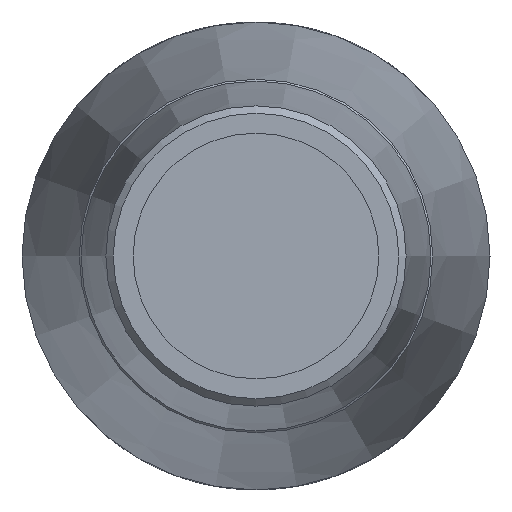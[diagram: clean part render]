
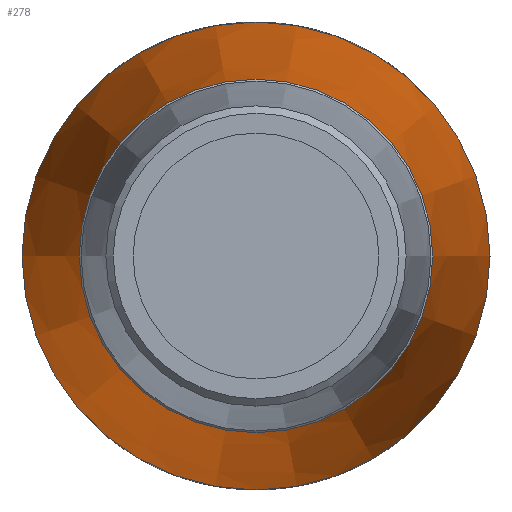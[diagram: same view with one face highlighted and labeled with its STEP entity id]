
A CAD part, left-side view. The second image highlights one B-rep face of the part: STEP entity #278.
In plain terms, the highlighted conical face has half-angle 6 degrees and reference radius 8.75 mm.
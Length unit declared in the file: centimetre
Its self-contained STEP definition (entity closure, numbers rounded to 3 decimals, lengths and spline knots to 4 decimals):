
#46=FACE_BOUND('',#86,.T.);
#63=FACE_OUTER_BOUND('',#85,.T.);
#85=EDGE_LOOP('',(#191));
#86=EDGE_LOOP('',(#192));
#121=CIRCLE('',#301,0.7552);
#123=CIRCLE('',#304,1.);
#137=VERTEX_POINT('',#423);
#139=VERTEX_POINT('',#428);
#161=EDGE_CURVE('',#137,#137,#121,.T.);
#163=EDGE_CURVE('',#139,#139,#123,.T.);
#191=ORIENTED_EDGE('',*,*,#163,.T.);
#192=ORIENTED_EDGE('',*,*,#161,.F.);
#246=CONICAL_SURFACE('',#303,0.875,6.);
#278=ADVANCED_FACE('',(#63,#46),#246,.T.);
#301=AXIS2_PLACEMENT_3D('',#424,#341,#342);
#303=AXIS2_PLACEMENT_3D('',#427,#345,#346);
#304=AXIS2_PLACEMENT_3D('',#429,#347,#348);
#341=DIRECTION('center_axis',(-1.,0.,0.));
#342=DIRECTION('ref_axis',(0.,1.,0.));
#345=DIRECTION('center_axis',(1.,0.,0.));
#346=DIRECTION('ref_axis',(0.,-1.,0.));
#347=DIRECTION('center_axis',(-1.,0.,0.));
#348=DIRECTION('ref_axis',(0.,0.,-1.));
#423=CARTESIAN_POINT('',(-5.2503,-0.7552,0.));
#424=CARTESIAN_POINT('Origin',(-5.2503,0.,
0.));
#427=CARTESIAN_POINT('Origin',(-4.1107,0.,0.));
#428=CARTESIAN_POINT('',(-2.9214,-1.,0.));
#429=CARTESIAN_POINT('Origin',(-2.9214,0.,0.));
